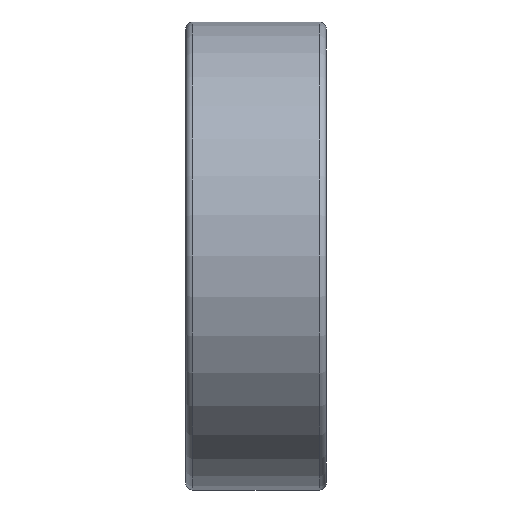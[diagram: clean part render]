
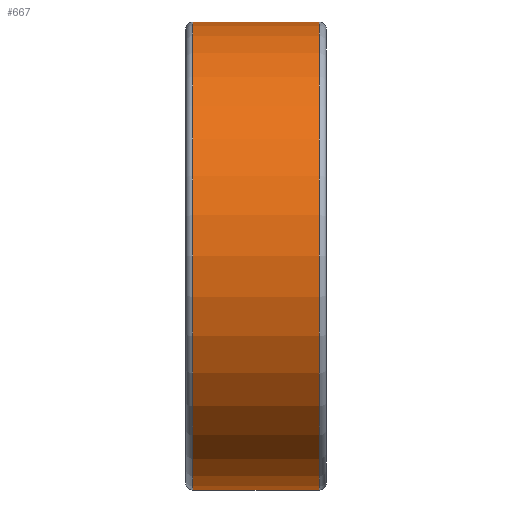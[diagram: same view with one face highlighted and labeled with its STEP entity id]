
A CAD part, front view. The second image highlights one B-rep face of the part: STEP entity #667.
In plain terms, the highlighted cylindrical face has radius 20 mm (diameter 40 mm), a full revolution.
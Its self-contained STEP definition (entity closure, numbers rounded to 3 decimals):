
#40=LINE('',#1284,#46);
#46=VECTOR('',#1051,20.);
#52=CYLINDRICAL_SURFACE('',#812,20.);
#116=FACE_OUTER_BOUND('',#169,.T.);
#169=EDGE_LOOP('',(#596,#597,#598,#599,#600,#601));
#252=CIRCLE('',#807,20.);
#253=CIRCLE('',#808,20.);
#256=CIRCLE('',#813,20.);
#257=CIRCLE('',#814,20.);
#349=VERTEX_POINT('',#1272);
#350=VERTEX_POINT('',#1273);
#352=VERTEX_POINT('',#1281);
#353=VERTEX_POINT('',#1282);
#434=EDGE_CURVE('',#349,#350,#252,.T.);
#435=EDGE_CURVE('',#350,#349,#253,.T.);
#438=EDGE_CURVE('',#352,#353,#256,.T.);
#439=EDGE_CURVE('',#352,#350,#40,.T.);
#440=EDGE_CURVE('',#353,#352,#257,.T.);
#596=ORIENTED_EDGE('',*,*,#438,.F.);
#597=ORIENTED_EDGE('',*,*,#439,.T.);
#598=ORIENTED_EDGE('',*,*,#434,.F.);
#599=ORIENTED_EDGE('',*,*,#435,.F.);
#600=ORIENTED_EDGE('',*,*,#439,.F.);
#601=ORIENTED_EDGE('',*,*,#440,.F.);
#667=ADVANCED_FACE('',(#116),#52,.T.);
#807=AXIS2_PLACEMENT_3D('',#1274,#1037,#1038);
#808=AXIS2_PLACEMENT_3D('',#1275,#1039,#1040);
#812=AXIS2_PLACEMENT_3D('',#1280,#1047,#1048);
#813=AXIS2_PLACEMENT_3D('',#1283,#1049,#1050);
#814=AXIS2_PLACEMENT_3D('',#1285,#1052,#1053);
#1037=DIRECTION('center_axis',(-1.,0.,0.));
#1038=DIRECTION('ref_axis',(0.,-1.,0.));
#1039=DIRECTION('center_axis',(-1.,0.,0.));
#1040=DIRECTION('ref_axis',(0.,-1.,0.));
#1047=DIRECTION('center_axis',(1.,0.,0.));
#1048=DIRECTION('ref_axis',(0.,1.,0.));
#1049=DIRECTION('center_axis',(1.,0.,0.));
#1050=DIRECTION('ref_axis',(0.,-1.,0.));
#1051=DIRECTION('',(-1.,0.,0.));
#1052=DIRECTION('center_axis',(1.,0.,0.));
#1053=DIRECTION('ref_axis',(0.,-1.,0.));
#1272=CARTESIAN_POINT('',(0.6,0.,20.));
#1273=CARTESIAN_POINT('',(0.6,-20.,0.));
#1274=CARTESIAN_POINT('Origin',(0.6,0.,0.));
#1275=CARTESIAN_POINT('Origin',(0.6,0.,0.));
#1280=CARTESIAN_POINT('Origin',(6.,0.,0.));
#1281=CARTESIAN_POINT('',(11.4,-20.,0.));
#1282=CARTESIAN_POINT('',(11.4,0.,20.));
#1283=CARTESIAN_POINT('Origin',(11.4,0.,0.));
#1284=CARTESIAN_POINT('',(6.,-20.,0.));
#1285=CARTESIAN_POINT('Origin',(11.4,0.,0.));
